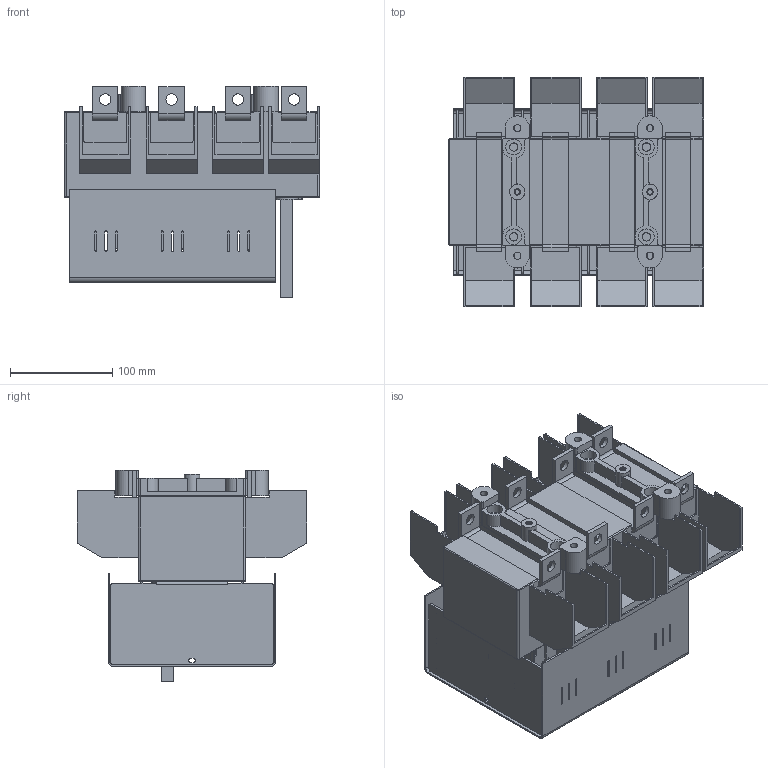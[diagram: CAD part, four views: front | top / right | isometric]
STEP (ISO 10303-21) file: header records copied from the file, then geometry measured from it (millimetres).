
FILE_DESCRIPTION(/* description */ (''),/* implementation_level */ '2;1');
FILE_NAME(/* name */ 'RAB 1 P3 NC z oslona zaciskow.stp',/* time_stamp */ '2021-08-19T13:04:09+02:00',/* author */ (''),/* organization */ (''),/* preprocessor_version */ 'ST-DEVELOPER v18.1',/* originating_system */ 'SIEMENS PLM Software NX 1965',/* authorisation */ '');
FILE_SCHEMA (('AUTOMOTIVE_DESIGN { 1 0 10303 214 3 1 1 1 }'));
Length unit declared in the file: millimetre
Products named in the file (1): RAB 1 P3 NC z oslona zaciskow_stp
Bounding box: 250 x 225 x 207.3 mm (x, y, z)
Volume: 2590654.4 mm3; surface area: 602450.4 mm2
Topology: 1 solids, 1 shells, 1244 faces, 3470 edges, 2266 vertices
Faces by surface type: plane 870, cylinder 366, bspline 5, torus 3
Full cylindrical faces by diameter (mm): 4.8 x2, 6.2 x2, 7 x4, 8.2 x4, 11 x8, 14 x4, 15 x2, 15.5 x4
Entity records: 39859 total; most frequent: CARTESIAN_POINT 7060, ORIENTED_EDGE 6872, DIRECTION 6700, EDGE_CURVE 3436, LINE 2640, VECTOR 2640, VERTEX_POINT 2262, AXIS2_PLACEMENT_3D 2030
